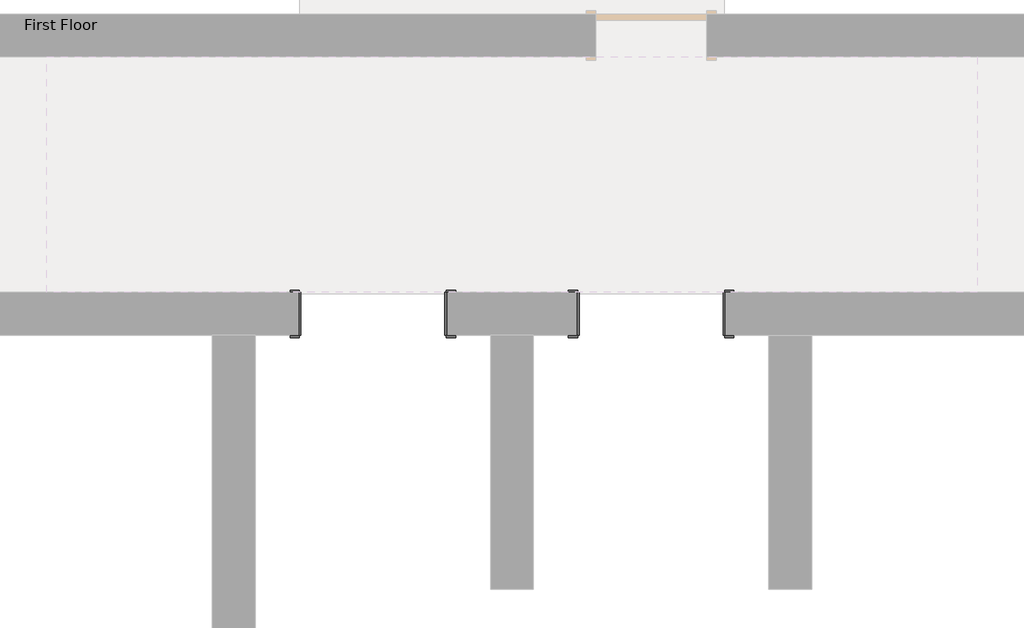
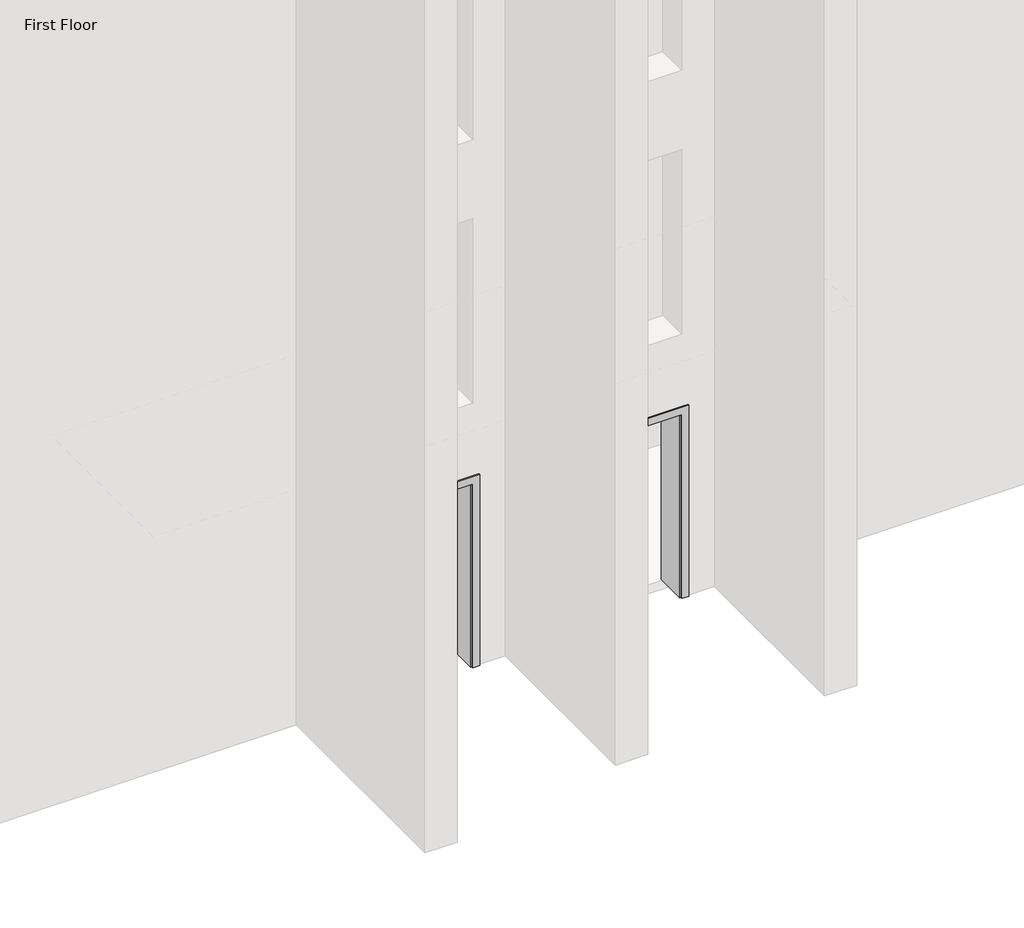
# One storey, part 5 of 5: 2 proxies.
"""IFC4 building model written with IfcOpenShell, lengths in millimetres."""

import ifcopenshell
import ifcopenshell.guid

model = None  # the IFC model being written
_history = None  # IfcOwnerHistory: only IFC2X3 demands one
_inside = {}  # id of a spatial element -> (the spatial element, [elements in it])
_under = {}  # id of a project, library or spatial element -> (it, [spatial elements below it])
_declared = {}  # id of a project -> (the project, [libraries it declares])
_typed = {}  # id of a type object -> (the type object, [elements of that type])
_made_of = {}  # id of a material, layer set ... -> (it, [elements and type objects made of it])


def new_model(schema):
    """Start an empty IFC model of exactly this schema.

    Asked for "IFC4X3", IfcOpenShell would pick the latest addendum, in which some entities
    have other attributes; the version numbers below select the first issue.
    IFC2X3 requires an IfcOwnerHistory on every rooted entity: one is made here for all.
    """
    global model, _history
    if schema == "IFC4X3":
        model = ifcopenshell.file(schema_version=(4, 3, 0, 0))
    else:
        model = ifcopenshell.file(schema=schema)
    _inside.clear()
    _under.clear()
    _declared.clear()
    _typed.clear()
    _made_of.clear()
    _history = None
    if model.schema == "IFC2X3":
        org = make("IfcOrganization", Name="unknown")
        user = make(
            "IfcPersonAndOrganization",
            ThePerson=make("IfcPerson", FamilyName="unknown"),
            TheOrganization=org,
        )
        app = make(
            "IfcApplication",
            ApplicationDeveloper=org,
            Version="unknown",
            ApplicationFullName="unknown",
            ApplicationIdentifier="unknown",
        )
        _history = make(
            "IfcOwnerHistory",
            OwningUser=user,
            OwningApplication=app,
            ChangeAction="ADDED",
            CreationDate=0,
        )
    return model


def make(cls, **values):
    """One entity of the class cls with the attributes given. An attribute that is None is left unset."""
    return model.create_entity(
        cls, **{name: value for name, value in values.items() if value is not None}
    )


def rooted(cls, **values):
    """An entity with a GlobalId (a new one), such as an element, a storey or a relation."""
    return make(cls, GlobalId=ifcopenshell.guid.new(), OwnerHistory=_history, **values)


def si_unit(unit_type, name, prefix=None):
    """IfcSIUnit, for example si_unit("LENGTHUNIT", "METRE", prefix="MILLI")."""
    return make("IfcSIUnit", UnitType=unit_type, Prefix=prefix, Name=name)


def assignment(units):
    """IfcUnitAssignment: the units of a project."""
    return None if units is None else make("IfcUnitAssignment", Units=units)


def point(xyz):
    """IfcCartesianPoint."""
    return None if xyz is None else make("IfcCartesianPoint", Coordinates=xyz)


def direction(xyz):
    """IfcDirection."""
    return None if xyz is None else make("IfcDirection", DirectionRatios=xyz)


def frame(location, z_axis=None, x_axis=None):
    """IfcAxis2Placement3D, a coordinate frame: its origin and axes. An axis left out is left unset."""
    return make(
        "IfcAxis2Placement3D",
        Location=point(location),
        Axis=direction(z_axis),
        RefDirection=direction(x_axis),
    )


def origin():
    """The frame at (0, 0, 0) with its axes left unset."""
    return frame((0.0, 0.0, 0.0))


def place(relative_to, where):
    """IfcLocalPlacement: puts the frame where relative to a parent placement (None: the world)."""
    return make(
        "IfcLocalPlacement", PlacementRelTo=relative_to, RelativePlacement=where
    )


def context(
    kind, dimensions, precision=None, world=None, true_north=None, identifier=None
):
    """IfcGeometricRepresentationContext, for example the 3D "Model" context."""
    return make(
        "IfcGeometricRepresentationContext",
        ContextIdentifier=identifier,
        ContextType=kind,
        CoordinateSpaceDimension=dimensions,
        Precision=precision,
        WorldCoordinateSystem=world,
        TrueNorth=true_north,
    )


def project(units=None, contexts=None):
    """IfcProject with its units and contexts."""
    return rooted(
        "IfcProject",
        Name="project",
        RepresentationContexts=contexts,
        UnitsInContext=assignment(units),
    )


def spatial(cls, under=None, at=None, **own):
    """A site, building, storey or space (cls), placed at a placement, below another one or the project."""
    s = rooted(cls, ObjectPlacement=at, **own)
    if under is not None:
        _under.setdefault(under.id(), (under, []))[1].append(s)
    return s


def polyline(points):
    """IfcPolyline through the points."""
    return make("IfcPolyline", Points=[point(p) for p in points])


def outline(outer, holes=None, kind="AREA"):
    """IfcArbitraryClosedProfileDef: a profile drawn as a closed curve; with holes, ...WithVoids."""
    if holes is None:
        return make("IfcArbitraryClosedProfileDef", ProfileType=kind, OuterCurve=outer)
    return make(
        "IfcArbitraryProfileDefWithVoids",
        ProfileType=kind,
        OuterCurve=outer,
        InnerCurves=holes,
    )


def extrude(swept, where, along, depth):
    """IfcExtrudedAreaSolid: the profile swept, set in the frame where, extruded along a direction by depth."""
    return make(
        "IfcExtrudedAreaSolid",
        SweptArea=swept,
        Position=where,
        ExtrudedDirection=direction(along),
        Depth=depth,
    )


def faces_of(points, faces, orient=None, outer=None):
    """IfcFace entities. A face is a list of loops; a loop is a list of indices into points, from 0.

    orient and outer hold one flag for each loop. By default every Orientation is true, the
    first loop of a face is its IfcFaceOuterBound and the others are IfcFaceBound.
    """
    made = []
    for i, loops in enumerate(faces):
        bounds = []
        for j, loop in enumerate(loops):
            is_outer = j == 0 if outer is None else outer[i][j]
            bounds.append(
                make(
                    "IfcFaceOuterBound" if is_outer else "IfcFaceBound",
                    Bound=make("IfcPolyLoop", Polygon=[points[k] for k in loop]),
                    Orientation=True if orient is None else orient[i][j],
                )
            )
        made.append(make("IfcFace", Bounds=bounds))
    return made


def faceted_brep(points, faces, orient=None, outer=None, voids=None):
    """IfcFacetedBrep: a solid bounded by flat faces; with voids (closed shells), ...WithVoids."""
    shared = [point(p) for p in points]
    hull = make("IfcClosedShell", CfsFaces=faces_of(shared, faces, orient, outer))
    if voids is None:
        return make("IfcFacetedBrep", Outer=hull)
    return make(
        "IfcFacetedBrepWithVoids",
        Outer=hull,
        Voids=[
            make(cls, CfsFaces=faces_of(shared, fs, o, b)) for cls, fs, o, b in voids
        ],
    )


def shape(context_of_items, identifier, shape_type, items):
    """IfcShapeRepresentation: the items that make up one representation, for example the "Body"."""
    return make(
        "IfcShapeRepresentation",
        ContextOfItems=context_of_items,
        RepresentationIdentifier=identifier,
        RepresentationType=shape_type,
        Items=items,
    )


def source(mapping_origin, context_of_items, identifier, shape_type, items):
    """IfcRepresentationMap: a shape defined once, which mapped items show again and again."""
    return make(
        "IfcRepresentationMap",
        MappingOrigin=mapping_origin,
        MappedRepresentation=shape(context_of_items, identifier, shape_type, items),
    )


def transform(
    local_origin,
    x_axis=None,
    y_axis=None,
    z_axis=None,
    scale=None,
    scale2=None,
    scale3=None,
    uniform=True,
):
    """IfcCartesianTransformationOperator3D, or its non-uniform kind. x_axis, y_axis, z_axis: its Axis1, 2, 3."""
    if uniform:
        return make(
            "IfcCartesianTransformationOperator3D",
            Axis1=direction(x_axis),
            Axis2=direction(y_axis),
            LocalOrigin=point(local_origin),
            Scale=scale,
            Axis3=direction(z_axis),
        )
    return make(
        "IfcCartesianTransformationOperator3DnonUniform",
        Axis1=direction(x_axis),
        Axis2=direction(y_axis),
        LocalOrigin=point(local_origin),
        Scale=scale,
        Axis3=direction(z_axis),
        Scale2=scale2,
        Scale3=scale3,
    )


def mapped(mapping_source, mapping_target):
    """IfcMappedItem: shows the shape of a source again, moved by a transform."""
    return make(
        "IfcMappedItem", MappingSource=mapping_source, MappingTarget=mapping_target
    )


def made_of(thing, what):
    """Note that an element or type object is made of a material, layer set ...; save() writes the relation."""
    if what is not None:
        _made_of.setdefault(what.id(), (what, []))[1].append(thing)
    return thing


def element(
    cls,
    number,
    at=None,
    inside=None,
    cuts=None,
    type_object=None,
    material=None,
    context=None,
    identifier="Body",
    shape_type=None,
    held_by="IfcProductDefinitionShape",
    body=None,
    shapes=None,
    **own,
):
    """One element of the class cls, such as IfcWall. Its Tag is "e" and its number.

    at: its placement. inside: the storey or other place that contains it. cuts: it is an
    opening in that element (IfcRelVoidsElement). A single representation is given by context,
    identifier, shape_type and body (its items); several are given by shapes. held_by: the class
    of the entity that holds the representations. save() writes the other relations.
    """
    e = rooted(cls, Tag="e%d" % number, ObjectPlacement=at, **own)
    if body is not None:
        shapes = [shape(context, identifier, shape_type, body)]
    if shapes is not None:
        e.Representation = make(held_by, Representations=shapes)
    if inside is not None:
        _inside.setdefault(inside.id(), (inside, []))[1].append(e)
    if cuts is not None:
        rooted(
            "IfcRelVoidsElement", RelatingBuildingElement=cuts, RelatedOpeningElement=e
        )
    if type_object is not None:
        _typed.setdefault(type_object.id(), (type_object, []))[1].append(e)
    return made_of(e, material)


def aggregate(whole, parts):
    """IfcRelAggregates: a whole, such as a stair, and the parts it consists of."""
    return rooted("IfcRelAggregates", RelatingObject=whole, RelatedObjects=parts)


def save(model, path):
    """Write the relations noted so far, then the file.

    IfcRelAggregates (storeys below a building ...), IfcRelContainedInSpatialStructure (elements
    in a storey), IfcRelDefinesByType, IfcRelAssociatesMaterial and IfcRelDeclares: one each for
    every whole, place, type object, material and project.
    """
    for whole, parts in _under.values():
        aggregate(whole, parts)
    for where, things in _inside.values():
        rooted(
            "IfcRelContainedInSpatialStructure",
            RelatedElements=things,
            RelatingStructure=where,
        )
    for kind, things in _typed.values():
        rooted("IfcRelDefinesByType", RelatedObjects=things, RelatingType=kind)
    for what, things in _made_of.values():
        rooted("IfcRelAssociatesMaterial", RelatedObjects=things, RelatingMaterial=what)
    for by, libraries in _declared.values():
        rooted("IfcRelDeclares", RelatingContext=by, RelatedDefinitions=libraries)
    model.write(path)


def proxy_c3589814(model_context):
    return source(origin(), model_context, "Body", "SolidModel", [
        extrude(outline(polyline([(0.0, -611.4386567), (2127.25, -611.4386567), (2127.25, 595.0613433), (0.0, 595.0613433), (0.0, 671.2613433), (2203.45, 671.2613433), (2203.45, -687.6386567), (0.0, -687.6386567), (0.0, -611.4386567)])), frame((0.0, -195.2625, 0.0), z_axis=(0.0, 1.0, 0.0), x_axis=(0.0, 0.0, 1.0)), (0.0, 0.0, 1.0), 19.05),
        extrude(outline(polyline([(0.0, 671.2613433), (2209.8, 671.2613433), (2209.8, -687.6386567), (0.0, -687.6386567), (0.0, -611.4386567), (2127.25, -611.4386567), (2127.25, 595.0613433), (0.0, 595.0613433), (0.0, 671.2613433)])), frame((0.0, 176.2125, 0.0), z_axis=(0.0, 1.0, 0.0), x_axis=(0.0, 0.0, 1.0)), (0.0, 0.0, 1.0), 19.05),
        faceted_brep([(582.3613433, 176.2125, 0.0), (601.4113433, 176.2125, 0.0), (601.4113433, -176.2125, 0.0), (582.3613433, -176.2125, 0.0), (582.3613433, 176.2125, 2114.55), (601.4113433, 176.2125, 2133.6), (601.4113433, -176.2125, 2133.6), (582.3613433, -176.2125, 2114.55), (-598.7386567, 176.2125, 2114.55), (-617.7886567, 176.2125, 2133.6), (-617.7886567, -176.2125, 2133.6), (-598.7386567, -176.2125, 2114.55), (-598.7386567, 176.2125, 0.0), (-598.7386567, -176.2125, 0.0), (-617.7886567, -176.2125, 0.0), (-617.7886567, 176.2125, 0.0)], [[[0, 1, 2, 3]], [[1, 0, 4, 5]], [[2, 1, 5, 6]], [[3, 2, 6, 7]], [[0, 3, 7, 4]], [[5, 4, 8, 9]], [[6, 5, 9, 10]], [[7, 6, 10, 11]], [[4, 7, 11, 8]], [[12, 13, 14, 15]], [[9, 8, 12, 15]], [[10, 9, 15, 14]], [[11, 10, 14, 13]], [[8, 11, 13, 12]]]),
    ])


model = new_model("IFC4")

# Units and contexts
model_context = context("Model", 3, world=origin())
ifc_project = project(units=[si_unit("LENGTHUNIT", "METRE", prefix="MILLI")], contexts=[model_context])

# Site, building, storey
site = spatial("IfcSite", under=ifc_project)
building = spatial("IfcBuilding", under=site)
storey = spatial("IfcBuildingStorey", under=building, Name="First Floor", Elevation=0.0)

# Proxies
placement = place(None, origin())
proxy_shape = proxy_c3589814(model_context)
element("IfcBuildingElementProxy", 1, Name="Opening-Cased : 48\" x 84\"", ObjectType="Opening-Cased : 48\" x 84\"", at=placement, inside=storey, context=model_context, shape_type="MappedRepresentation", body=[
    mapped(proxy_shape, transform((-7396.8036255, 2429.9758812, 0.0), x_axis=(-1.0, 0.0, 0.0), y_axis=(0.0, -1.0, 0.0), z_axis=(0.0, 0.0, 1.0))),
])
element("IfcBuildingElementProxy", 2, Name="Opening-Cased : 48\" x 84\"", ObjectType="Opening-Cased : 48\" x 84\"", at=placement, inside=storey, context=model_context, shape_type="MappedRepresentation", body=[
    mapped(proxy_shape, transform((-5110.8036255, 2429.9758812, 0.0), x_axis=(-1.0, 0.0, 0.0), y_axis=(0.0, -1.0, 0.0), z_axis=(0.0, 0.0, 1.0))),
])

save(model, "model.ifc")
